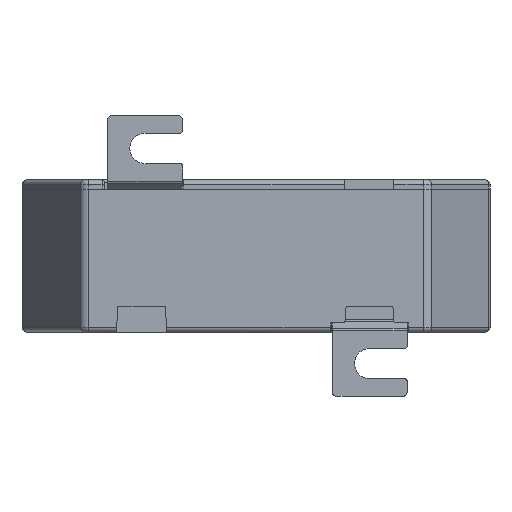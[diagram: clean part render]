
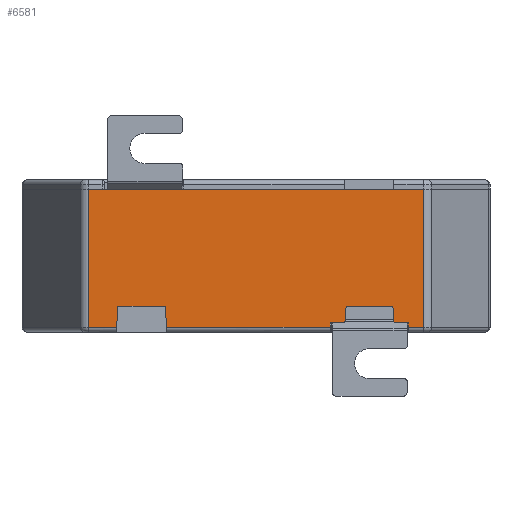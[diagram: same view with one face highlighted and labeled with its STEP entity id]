
A CAD part, front view. The second image highlights one B-rep face of the part: STEP entity #6581.
In plain terms, the highlighted planar face has unit normal (0, -1, 0).
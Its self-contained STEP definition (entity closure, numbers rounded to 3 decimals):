
#183=DIRECTION('',(-1.,0.,0.));
#184=VECTOR('',#183,71.597);
#185=CARTESIAN_POINT('',(50.798,-43.,15.25));
#186=LINE('',#185,#184);
#1910=DIRECTION('',(-1.,0.,0.));
#1911=VECTOR('',#1910,3.248);
#1912=CARTESIAN_POINT('',(50.798,-43.,-14.25));
#1913=LINE('',#1912,#1911);
#1996=DIRECTION('',(0.,0.,-1.));
#1997=VECTOR('',#1996,1.);
#1998=CARTESIAN_POINT('',(47.55,-43.,-13.25));
#1999=LINE('',#1998,#1997);
#2018=DIRECTION('',(-1.,0.,0.));
#2019=VECTOR('',#2018,10.121);
#2020=CARTESIAN_POINT('',(-4.389,-43.,-9.747));
#2021=LINE('',#2020,#2019);
#2025=DIRECTION('',(-0.071,0.,0.997));
#2026=VECTOR('',#2025,3.509);
#2027=CARTESIAN_POINT('',(44.5,-43.,-13.25));
#2028=LINE('',#2027,#2026);
#2032=DIRECTION('',(-1.,0.,0.));
#2033=VECTOR('',#2032,10.);
#2034=CARTESIAN_POINT('',(44.25,-43.,-9.75));
#2035=LINE('',#2034,#2033);
#2039=DIRECTION('',(-0.071,0.,-0.997));
#2040=VECTOR('',#2039,3.509);
#2041=CARTESIAN_POINT('',(34.25,-43.,-9.75));
#2042=LINE('',#2041,#2040);
#2053=DIRECTION('',(0.,0.,-1.));
#2054=VECTOR('',#2053,1.);
#2055=CARTESIAN_POINT('',(30.85,-43.,-13.25));
#2056=LINE('',#2055,#2054);
#2082=DIRECTION('',(1.,0.,0.));
#2083=VECTOR('',#2082,3.05);
#2084=CARTESIAN_POINT('',(44.5,-43.,-13.25));
#2085=LINE('',#2084,#2083);
#2103=DIRECTION('',(1.,0.,0.));
#2104=VECTOR('',#2103,3.15);
#2105=CARTESIAN_POINT('',(30.85,-43.,-13.25));
#2106=LINE('',#2105,#2104);
#2528=DIRECTION('',(-1.,0.,0.));
#2529=VECTOR('',#2528,34.962);
#2530=CARTESIAN_POINT('',(30.85,-43.,-14.25));
#2531=LINE('',#2530,#2529);
#2570=DIRECTION('',(-0.062,0.,0.998));
#2571=VECTOR('',#2570,4.512);
#2572=CARTESIAN_POINT('',(-4.112,-43.,-14.25));
#2573=LINE('',#2572,#2571);
#2577=DIRECTION('',(0.062,0.,0.998));
#2578=VECTOR('',#2577,4.512);
#2579=CARTESIAN_POINT('',(-14.788,-43.,-14.25));
#2580=LINE('',#2579,#2578);
#2626=DIRECTION('',(-1.,0.,0.));
#2627=VECTOR('',#2626,6.01);
#2628=CARTESIAN_POINT('',(-14.788,-43.,-14.25));
#2629=LINE('',#2628,#2627);
#3078=DIRECTION('',(0.,0.,1.));
#3079=VECTOR('',#3078,29.5);
#3080=CARTESIAN_POINT('',(-20.798,-43.,-14.25));
#3081=LINE('',#3080,#3079);
#3335=DIRECTION('',(0.,0.,1.));
#3336=VECTOR('',#3335,29.5);
#3337=CARTESIAN_POINT('',(50.798,-43.,-14.25));
#3338=LINE('',#3337,#3336);
#4655=CARTESIAN_POINT('',(44.5,-43.,-13.25));
#4656=CARTESIAN_POINT('',(44.25,-43.,-9.75));
#4657=VERTEX_POINT('',#4655);
#4658=VERTEX_POINT('',#4656);
#4659=CARTESIAN_POINT('',(34.25,-43.,-9.75));
#4660=VERTEX_POINT('',#4659);
#4661=CARTESIAN_POINT('',(34.,-43.,-13.25));
#4662=VERTEX_POINT('',#4661);
#4888=CARTESIAN_POINT('',(-20.798,-43.,15.25));
#4890=VERTEX_POINT('',#4888);
#4891=CARTESIAN_POINT('',(50.798,-43.,15.25));
#4893=VERTEX_POINT('',#4891);
#4941=CARTESIAN_POINT('',(-20.798,-43.,-14.25));
#4942=VERTEX_POINT('',#4941);
#4945=CARTESIAN_POINT('',(-14.788,-43.,-14.25));
#4946=VERTEX_POINT('',#4945);
#4952=CARTESIAN_POINT('',(50.798,-43.,-14.25));
#4954=VERTEX_POINT('',#4952);
#5006=CARTESIAN_POINT('',(30.85,-43.,-13.25));
#5007=CARTESIAN_POINT('',(30.85,-43.,-14.25));
#5008=VERTEX_POINT('',#5006);
#5009=VERTEX_POINT('',#5007);
#5036=CARTESIAN_POINT('',(47.55,-43.,-13.25));
#5037=CARTESIAN_POINT('',(47.55,-43.,-14.25));
#5038=VERTEX_POINT('',#5036);
#5039=VERTEX_POINT('',#5037);
#5050=CARTESIAN_POINT('',(-4.112,-43.,-14.25));
#5051=VERTEX_POINT('',#5050);
#5082=CARTESIAN_POINT('',(-14.511,-43.,-9.747));
#5083=VERTEX_POINT('',#5082);
#5084=CARTESIAN_POINT('',(-4.389,-43.,-9.747));
#5085=VERTEX_POINT('',#5084);
#6545=CARTESIAN_POINT('',(52.,-43.,-15.25));
#6546=DIRECTION('',(0.,1.,0.));
#6547=DIRECTION('',(-1.,0.,0.));
#6548=AXIS2_PLACEMENT_3D('',#6545,#6546,#6547);
#6549=PLANE('',#6548);
#6551=ORIENTED_EDGE('',*,*,#6550,.T.);
#6553=ORIENTED_EDGE('',*,*,#6552,.T.);
#6555=ORIENTED_EDGE('',*,*,#6554,.T.);
#6557=ORIENTED_EDGE('',*,*,#6556,.T.);
#6559=ORIENTED_EDGE('',*,*,#6558,.F.);
#6561=ORIENTED_EDGE('',*,*,#6560,.T.);
#6563=ORIENTED_EDGE('',*,*,#6562,.T.);
#6564=ORIENTED_EDGE('',*,*,#5251,.F.);
#6566=ORIENTED_EDGE('',*,*,#6565,.F.);
#6567=ORIENTED_EDGE('',*,*,#6473,.T.);
#6568=ORIENTED_EDGE('',*,*,#6536,.F.);
#6570=ORIENTED_EDGE('',*,*,#6569,.F.);
#6572=ORIENTED_EDGE('',*,*,#6571,.T.);
#6574=ORIENTED_EDGE('',*,*,#6573,.T.);
#6576=ORIENTED_EDGE('',*,*,#6575,.T.);
#6578=ORIENTED_EDGE('',*,*,#6577,.F.);
#6579=EDGE_LOOP('',(#6551,#6553,#6555,#6557,#6559,#6561,#6563,#6564,#6566,#6567,
#6568,#6570,#6572,#6574,#6576,#6578));
#6580=FACE_OUTER_BOUND('',#6579,.F.);
#5251=EDGE_CURVE('',#4893,#4890,#186,.T.);
#6473=EDGE_CURVE('',#4954,#5039,#1913,.T.);
#6536=EDGE_CURVE('',#5038,#5039,#1999,.T.);
#6550=EDGE_CURVE('',#5008,#5009,#2056,.T.);
#6552=EDGE_CURVE('',#5009,#5051,#2531,.T.);
#6554=EDGE_CURVE('',#5051,#5085,#2573,.T.);
#6556=EDGE_CURVE('',#5085,#5083,#2021,.T.);
#6558=EDGE_CURVE('',#4946,#5083,#2580,.T.);
#6560=EDGE_CURVE('',#4946,#4942,#2629,.T.);
#6562=EDGE_CURVE('',#4942,#4890,#3081,.T.);
#6565=EDGE_CURVE('',#4954,#4893,#3338,.T.);
#6569=EDGE_CURVE('',#4657,#5038,#2085,.T.);
#6571=EDGE_CURVE('',#4657,#4658,#2028,.T.);
#6573=EDGE_CURVE('',#4658,#4660,#2035,.T.);
#6575=EDGE_CURVE('',#4660,#4662,#2042,.T.);
#6577=EDGE_CURVE('',#5008,#4662,#2106,.T.);
#6581=ADVANCED_FACE('',(#6580),#6549,.F.);
